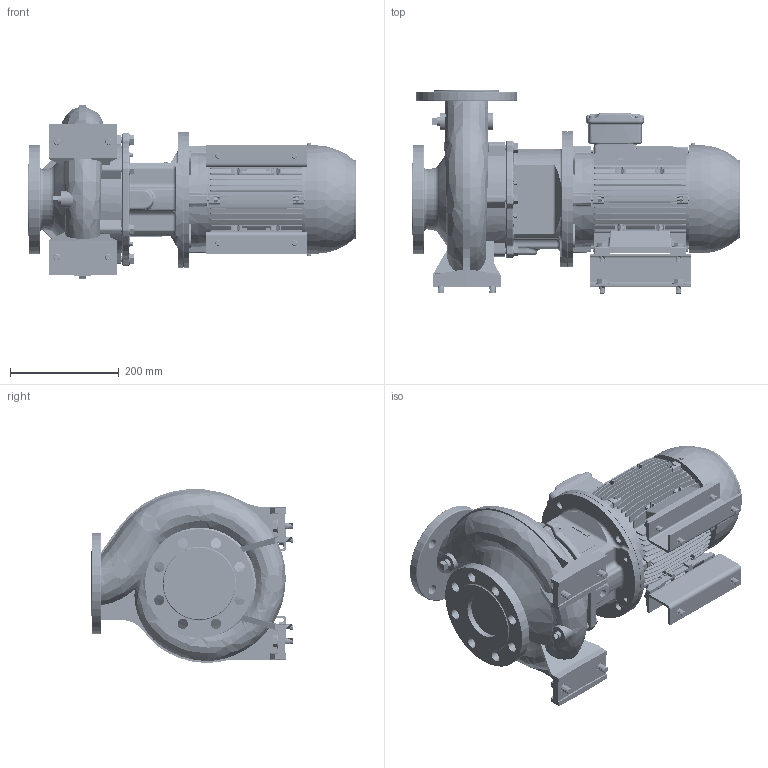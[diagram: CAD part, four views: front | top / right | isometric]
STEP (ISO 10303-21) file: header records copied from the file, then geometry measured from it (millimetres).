
FILE_DESCRIPTION (( 'STEP AP214' ), '1' );
FILE_NAME ('GSD4 65-160_2.2_(100L)_W21.STEP', '2026-07-01T01:34:41', ( '' ), ( '' ), 'SwSTEP 2.0', 'SolidWorks 2024', '' );
FILE_SCHEMA (( 'AUTOMOTIVE_DESIGN' ));
Length unit declared in the file: millimetre
Products named in the file (12): 65-160-100L_ﾃﾞﾌｫﾙﾄ; Parametric bolt_SFT-A299B; 140 x 60 Side - 271472021; Parametric bolt_SFT-A249B; Parametric Flat Washer_M10; Parametric bolt and washer_SFT-A249B; Parametric Flat Washer_M12; Parametric bolt_SFT-A253B; GSD4 65-160_2.2_(100L)_W21; Parametric bolt and washer_SFT-A299B; Parametric bolt and washer_SFT-A253B; 100L ALIE3_W21T_B35
Assembly tree (22 placements, depth 3):
  GSD4 65-160_2.2_(100L)_W21
    65-160-100L_ﾃﾞﾌｫﾙﾄ
    100L ALIE3_W21T_B35
    140 x 60 Side - 271472021  x2
    Parametric bolt and washer_SFT-A249B  x4
      Parametric bolt_SFT-A249B
      Parametric Flat Washer_M10
    Parametric bolt and washer_SFT-A253B  x4
      Parametric bolt_SFT-A253B
      Parametric Flat Washer_M10
    Parametric bolt and washer_SFT-A299B  x4
      Parametric bolt_SFT-A299B
      Parametric Flat Washer_M12
Bounding box: 602.1 x 373 x 319.24 mm (x, y, z)
Volume: 18100245.4 mm3; surface area: 1465538.4 mm2
Topology: 31 solids, 31 shells, 4176 faces, 10877 edges, 6993 vertices
Faces by surface type: plane 2303, cylinder 1120, torus 312, bspline 240, cone 183, sphere 18
Entity records: 185961 total; most frequent: CARTESIAN_POINT 98178, ORIENTED_EDGE 19004, DIRECTION 16973, EDGE_CURVE 9502, VERTEX_POINT 6113, LINE 6001, VECTOR 6001, AXIS2_PLACEMENT_3D 5486
